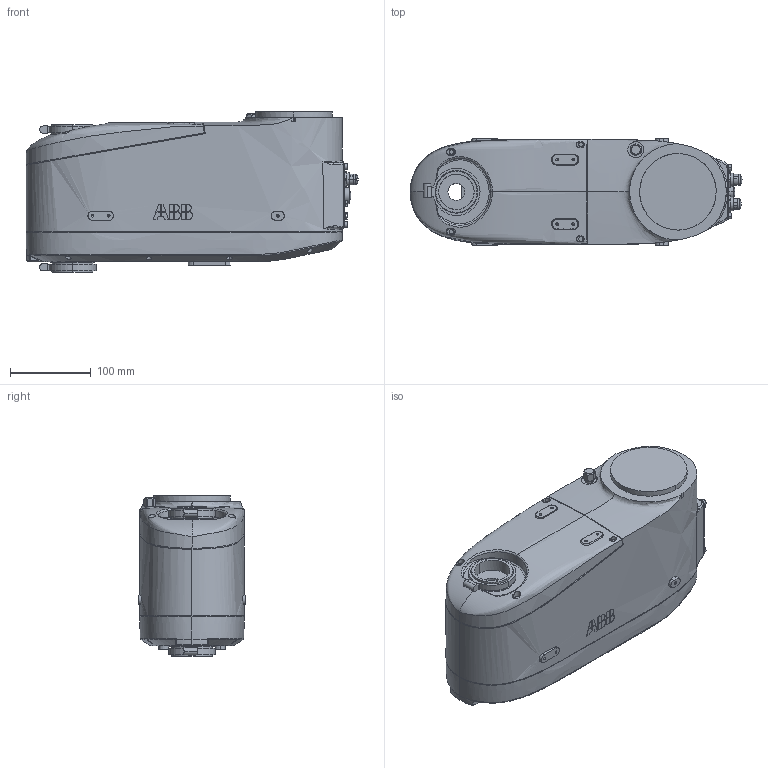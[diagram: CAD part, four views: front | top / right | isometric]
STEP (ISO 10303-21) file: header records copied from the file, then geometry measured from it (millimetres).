
FILE_DESCRIPTION (( 'STEP AP214' ), '1' );
FILE_NAME ('Link2_C550_IP54CR.step', '2019-10-23T07:38:29', ( '' ), ( '' ), 'SwSTEP 2.0', 'SolidWorks 2018', '' );
FILE_SCHEMA (( 'AUTOMOTIVE_DESIGN' ));
Length unit declared in the file: millimetre
Products named in the file (1): Link2_C550_IP54CR
Bounding box: 412.22 x 134 x 199 mm (x, y, z)
Volume: 7769502.2 mm3; surface area: 290572.9 mm2
Topology: 3 solids, 3 shells, 1117 faces, 3035 edges, 2016 vertices
Faces by surface type: plane 534, bspline 299, cylinder 182, cone 86, torus 14, sphere 2
Entity records: 85642 total; most frequent: CARTESIAN_POINT 59447, ORIENTED_EDGE 5988, DIRECTION 3350, EDGE_CURVE 2994, VERTEX_POINT 2016, B_SPLINE_CURVE_WITH_KNOTS 1502, EDGE_LOOP 1258, VECTOR 1222
